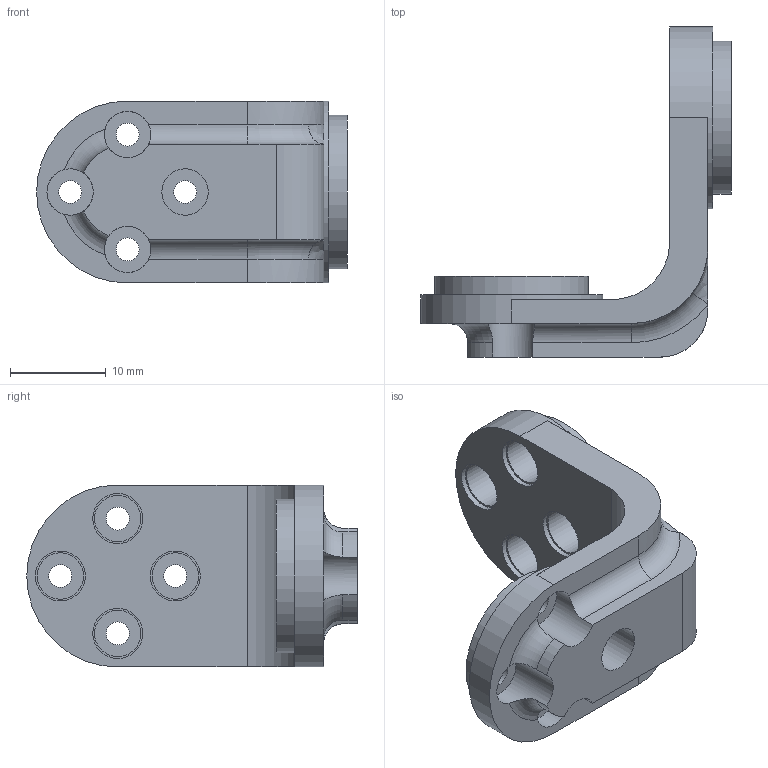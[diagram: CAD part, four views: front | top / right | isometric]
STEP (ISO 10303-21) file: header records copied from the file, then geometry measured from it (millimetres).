
FILE_DESCRIPTION(('FreeCAD Model'),'2;1');
FILE_NAME('Open CASCADE Shape Model','2026-09-09T20:58:30',('Author'),( ''),'Open CASCADE STEP processor 7.8','FreeCAD','Unknown');
FILE_SCHEMA(('AUTOMOTIVE_DESIGN { 1 0 10303 214 1 1 1 1 }'));
Length unit declared in the file: millimetre
Products named in the file (1): microduck-hip-bracket
Bounding box: 32.45 x 34.5 x 19 mm (x, y, z)
Volume: 4538.6 mm3; surface area: 3424.1 mm2
Topology: 1 solids, 1 shells, 68 faces, 153 edges, 100 vertices
Faces by surface type: cylinder 34, plane 28, torus 4, bspline 2
Full cylindrical faces by diameter (mm): 2.4 x8, 4.84 x8, 5.22 x4, 6 x2, 16 x2, 19 x2
Entity records: 2248 total; most frequent: CARTESIAN_POINT 642, DIRECTION 349, ORIENTED_EDGE 306, EDGE_CURVE 153, AXIS2_PLACEMENT_3D 144, VERTEX_POINT 100, FACE_BOUND 97, EDGE_LOOP 97
